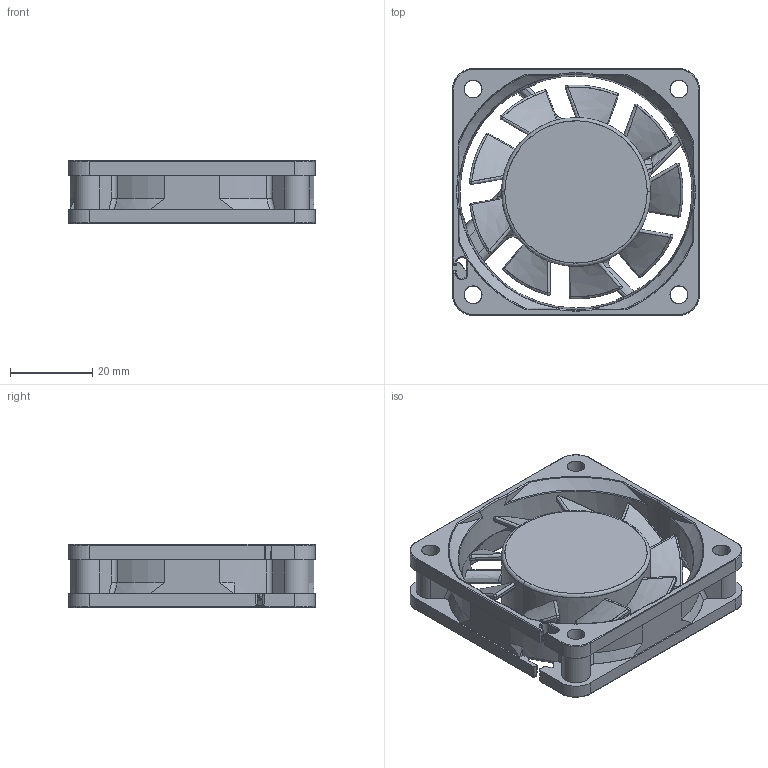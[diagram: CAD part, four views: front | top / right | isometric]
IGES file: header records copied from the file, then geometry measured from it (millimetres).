
Start section: SolidWorks IGES file using analytic representation for surfaces
Global section: file name: C:\Users\Midorikawa-tatsuya\Desktop\3D作成\9WF 60x15\リブ付き\6015WF_RIBBED.IGS; native system: SolidWorks 2017; preprocessor: SolidWorks 2017; author: Midorikawa-Tatsuya; date: 170314.150136; units: millimetre
Bounding box: 60 x 60 x 15.35 mm (x, y, z)
Surface area: 15905.5 mm2 (no closed solid volume)
Topology: 0 solids, 0 shells, 506 faces, 4783 edges, 4715 vertices
Faces by surface type: bspline 284, revolution 222
